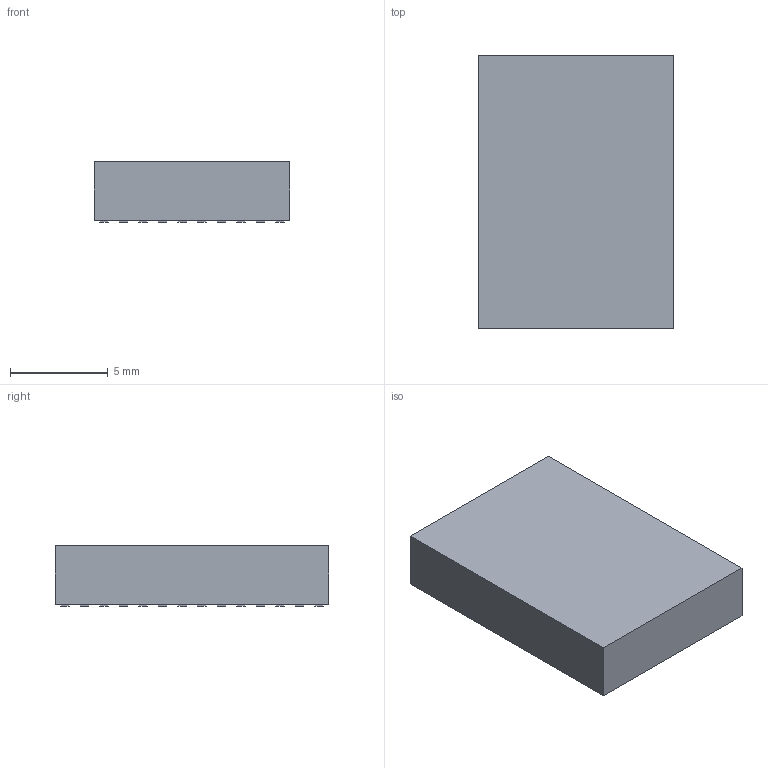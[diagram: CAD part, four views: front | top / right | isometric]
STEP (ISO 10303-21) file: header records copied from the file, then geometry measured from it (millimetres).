
FILE_DESCRIPTION(('FreeCAD Model'),'2;1');
FILE_NAME('/var/www/3D/0T/1149675.1.2.stp','2020-04-09T22:59:16',( 'Author'),(''),'Open CASCADE STEP processor 6.9','FreeCAD','Unknown' );
FILE_SCHEMA(('AUTOMOTIVE_DESIGN { 1 0 10303 214 1 1 1 1 }'));
Length unit declared in the file: millimetre
Products named in the file (3): ASSEMBLY; Body; Pins
Assembly tree (2 placements, depth 2):
  ASSEMBLY
    Body
    Pins
Bounding box: 10 x 14 x 3.1 mm (x, y, z)
Volume: 422.1 mm3; surface area: 484.8 mm2
Topology: 109 solids, 109 shells, 654 faces, 1308 edges, 872 vertices
Faces by surface type: plane 654
Entity records: 34391 total; most frequent: CARTESIAN_POINT 5453, DIRECTION 5238, LINE 3924, VECTOR 3924, ORIENTED_EDGE 2616, PCURVE 2616, DEFINITIONAL_REPRESENTATION 2616, EDGE_CURVE 1308
